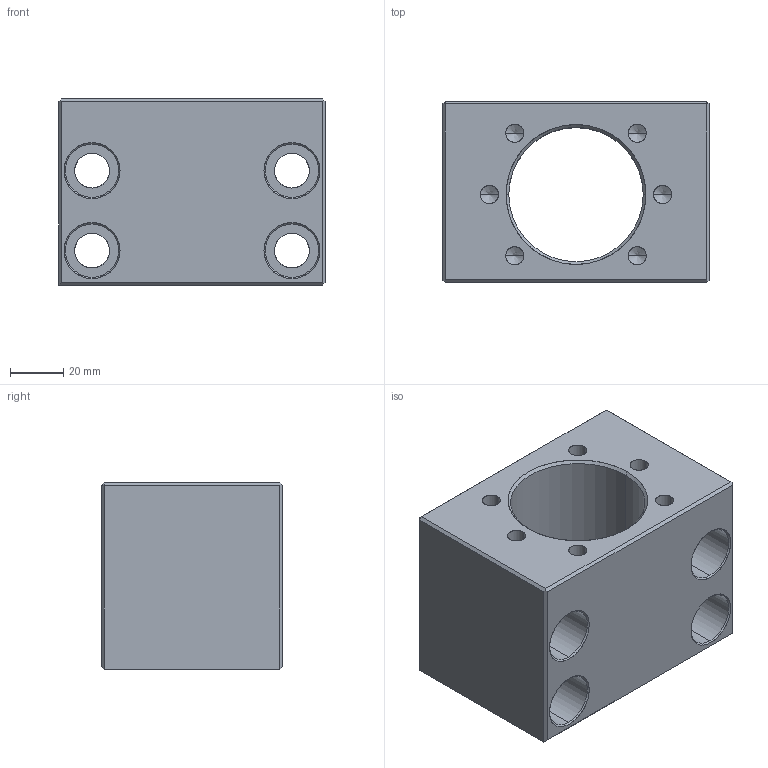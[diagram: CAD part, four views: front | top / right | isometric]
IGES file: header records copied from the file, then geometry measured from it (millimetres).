
Start section: SolidWorks IGES file using analytic representation for surfaces
Bounding box: 100 x 68 x 70 mm (x, y, z)
Surface area: 57514.8 mm2 (no closed solid volume)
Topology: 0 solids, 0 shells, 94 faces, 1198 edges, 1186 vertices
Faces by surface type: revolution 70, bspline 24
